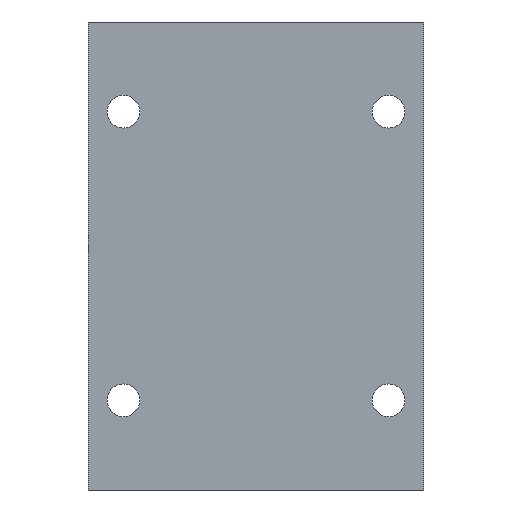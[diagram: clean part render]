
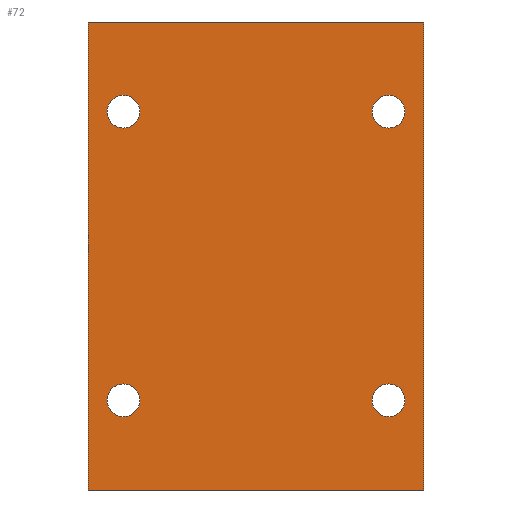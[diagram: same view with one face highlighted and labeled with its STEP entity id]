
A CAD part, front view. The second image highlights one B-rep face of the part: STEP entity #72.
In plain terms, the highlighted planar face has unit normal (0, -1, 0).
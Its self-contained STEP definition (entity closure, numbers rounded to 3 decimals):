
#18 = DIRECTION ( 'NONE',  ( 0., 0., 1. ) ) ;
#38 = DIRECTION ( 'NONE',  ( 0., 0., -1. ) ) ;
#50 = DIRECTION ( 'NONE',  ( 0., 0., -1. ) ) ;
#65 = EDGE_CURVE ( 'NONE', #905, #213, #830, .T. ) ;
#72 = ADVANCED_FACE ( 'NONE', ( #280, #99, #851, #1202, #476 ), #743, .F. ) ;
#79 = VECTOR ( 'NONE', #111, 1000. ) ;
#95 = EDGE_LOOP ( 'NONE', ( #988, #1065 ) ) ;
#97 = DIRECTION ( 'NONE',  ( 0., 0., -1. ) ) ;
#99 = FACE_BOUND ( 'NONE', #95, .T. ) ;
#105 = AXIS2_PLACEMENT_3D ( 'NONE', #1011, #474, #936 ) ;
#111 = DIRECTION ( 'NONE',  ( 0., 0., -1. ) ) ;
#114 = EDGE_CURVE ( 'NONE', #1186, #681, #197, .T. ) ;
#123 = DIRECTION ( 'NONE',  ( 0., 0., -1. ) ) ;
#126 = CIRCLE ( 'NONE', #165, 2.1 ) ;
#141 = DIRECTION ( 'NONE',  ( 0., -1., 0. ) ) ;
#158 = EDGE_LOOP ( 'NONE', ( #818, #532 ) ) ;
#165 = AXIS2_PLACEMENT_3D ( 'NONE', #379, #742, #287 ) ;
#170 = EDGE_CURVE ( 'NONE', #654, #509, #812, .T. ) ;
#197 = CIRCLE ( 'NONE', #875, 2.1 ) ;
#198 = DIRECTION ( 'NONE',  ( 1., 0., 0. ) ) ;
#205 = EDGE_CURVE ( 'NONE', #1149, #434, #1013, .T. ) ;
#211 = DIRECTION ( 'NONE',  ( 0., -1., 0. ) ) ;
#213 = VERTEX_POINT ( 'NONE', #774 ) ;
#247 = EDGE_CURVE ( 'NONE', #905, #520, #978, .T. ) ;
#255 = CARTESIAN_POINT ( 'NONE',  ( 17., -18.25, 16.4 ) ) ;
#266 = EDGE_CURVE ( 'NONE', #434, #1149, #521, .T. ) ;
#278 = CIRCLE ( 'NONE', #105, 2.1 ) ;
#280 = FACE_BOUND ( 'NONE', #346, .T. ) ;
#287 = DIRECTION ( 'NONE',  ( 0., 0., -1. ) ) ;
#288 = DIRECTION ( 'NONE',  ( 0., 1., 0. ) ) ;
#305 = DIRECTION ( 'NONE',  ( 1., 0., 0. ) ) ;
#318 = ORIENTED_EDGE ( 'NONE', *, *, #266, .F. ) ;
#325 = CARTESIAN_POINT ( 'NONE',  ( 17., -18.25, -18.5 ) ) ;
#326 = ORIENTED_EDGE ( 'NONE', *, *, #355, .F. ) ;
#337 = ORIENTED_EDGE ( 'NONE', *, *, #909, .T. ) ;
#346 = EDGE_LOOP ( 'NONE', ( #1105, #326 ) ) ;
#349 = AXIS2_PLACEMENT_3D ( 'NONE', #402, #211, #780 ) ;
#355 = EDGE_CURVE ( 'NONE', #681, #1186, #378, .T. ) ;
#368 = ORIENTED_EDGE ( 'NONE', *, *, #247, .F. ) ;
#378 = CIRCLE ( 'NONE', #781, 2.1 ) ;
#379 = CARTESIAN_POINT ( 'NONE',  ( -17., -18.25, -18.5 ) ) ;
#388 = CARTESIAN_POINT ( 'NONE',  ( -17., -18.25, 18.5 ) ) ;
#400 = CARTESIAN_POINT ( 'NONE',  ( 21.5, -18.25, -30. ) ) ;
#402 = CARTESIAN_POINT ( 'NONE',  ( -17., -18.25, -18.5 ) ) ;
#424 = DIRECTION ( 'NONE',  ( 0., -1., 0. ) ) ;
#434 = VERTEX_POINT ( 'NONE', #894 ) ;
#459 = LINE ( 'NONE', #930, #944 ) ;
#471 = EDGE_LOOP ( 'NONE', ( #337, #1190, #368, #503 ) ) ;
#474 = DIRECTION ( 'NONE',  ( 0., -1., 0. ) ) ;
#476 = FACE_BOUND ( 'NONE', #158, .T. ) ;
#497 = CARTESIAN_POINT ( 'NONE',  ( -17., -18.25, 16.4 ) ) ;
#502 = AXIS2_PLACEMENT_3D ( 'NONE', #388, #910, #749 ) ;
#503 = ORIENTED_EDGE ( 'NONE', *, *, #65, .T. ) ;
#509 = VERTEX_POINT ( 'NONE', #1005 ) ;
#516 = ORIENTED_EDGE ( 'NONE', *, *, #205, .F. ) ;
#520 = VERTEX_POINT ( 'NONE', #565 ) ;
#521 = CIRCLE ( 'NONE', #1167, 2.1 ) ;
#524 = VERTEX_POINT ( 'NONE', #572 ) ;
#532 = ORIENTED_EDGE ( 'NONE', *, *, #586, .F. ) ;
#551 = AXIS2_PLACEMENT_3D ( 'NONE', #562, #141, #38 ) ;
#562 = CARTESIAN_POINT ( 'NONE',  ( 17., -18.25, 18.5 ) ) ;
#565 = CARTESIAN_POINT ( 'NONE',  ( 21.5, -18.25, 30. ) ) ;
#566 = LINE ( 'NONE', #834, #634 ) ;
#567 = CARTESIAN_POINT ( 'NONE',  ( -21.5, -18.25, 30. ) ) ;
#571 = AXIS2_PLACEMENT_3D ( 'NONE', #1115, #288, #18 ) ;
#572 = CARTESIAN_POINT ( 'NONE',  ( -17., -18.25, 20.6 ) ) ;
#577 = CARTESIAN_POINT ( 'NONE',  ( 17., -18.25, -16.4 ) ) ;
#586 = EDGE_CURVE ( 'NONE', #524, #824, #278, .T. ) ;
#601 = EDGE_LOOP ( 'NONE', ( #516, #318 ) ) ;
#634 = VECTOR ( 'NONE', #198, 1000. ) ;
#654 = VERTEX_POINT ( 'NONE', #1067 ) ;
#670 = DIRECTION ( 'NONE',  ( 0., 0., -1. ) ) ;
#681 = VERTEX_POINT ( 'NONE', #577 ) ;
#742 = DIRECTION ( 'NONE',  ( 0., -1., 0. ) ) ;
#743 = PLANE ( 'NONE',  #571 ) ;
#749 = DIRECTION ( 'NONE',  ( 0., 0., -1. ) ) ;
#758 = DIRECTION ( 'NONE',  ( 0., -1., 0. ) ) ;
#774 = CARTESIAN_POINT ( 'NONE',  ( -21.5, -18.25, -30. ) ) ;
#780 = DIRECTION ( 'NONE',  ( 0., 0., -1. ) ) ;
#781 = AXIS2_PLACEMENT_3D ( 'NONE', #1182, #1168, #50 ) ;
#812 = CIRCLE ( 'NONE', #349, 2.1 ) ;
#817 = VERTEX_POINT ( 'NONE', #400 ) ;
#818 = ORIENTED_EDGE ( 'NONE', *, *, #979, .F. ) ;
#824 = VERTEX_POINT ( 'NONE', #497 ) ;
#830 = LINE ( 'NONE', #567, #79 ) ;
#834 = CARTESIAN_POINT ( 'NONE',  ( -21.5, -18.25, -30. ) ) ;
#851 = FACE_BOUND ( 'NONE', #601, .T. ) ;
#875 = AXIS2_PLACEMENT_3D ( 'NONE', #325, #424, #123 ) ;
#894 = CARTESIAN_POINT ( 'NONE',  ( 17., -18.25, 20.6 ) ) ;
#896 = CARTESIAN_POINT ( 'NONE',  ( 17., -18.25, -20.6 ) ) ;
#905 = VERTEX_POINT ( 'NONE', #1012 ) ;
#909 = EDGE_CURVE ( 'NONE', #213, #817, #566, .T. ) ;
#910 = DIRECTION ( 'NONE',  ( 0., -1., 0. ) ) ;
#930 = CARTESIAN_POINT ( 'NONE',  ( 21.5, -18.25, 30. ) ) ;
#936 = DIRECTION ( 'NONE',  ( 0., 0., -1. ) ) ;
#938 = EDGE_CURVE ( 'NONE', #520, #817, #459, .T. ) ;
#944 = VECTOR ( 'NONE', #97, 1000. ) ;
#954 = CARTESIAN_POINT ( 'NONE',  ( -21.5, -18.25, 30. ) ) ;
#955 = EDGE_CURVE ( 'NONE', #509, #654, #126, .T. ) ;
#960 = CARTESIAN_POINT ( 'NONE',  ( 17., -18.25, 18.5 ) ) ;
#978 = LINE ( 'NONE', #954, #1016 ) ;
#979 = EDGE_CURVE ( 'NONE', #824, #524, #1169, .T. ) ;
#988 = ORIENTED_EDGE ( 'NONE', *, *, #955, .F. ) ;
#1005 = CARTESIAN_POINT ( 'NONE',  ( -17., -18.25, -20.6 ) ) ;
#1011 = CARTESIAN_POINT ( 'NONE',  ( -17., -18.25, 18.5 ) ) ;
#1012 = CARTESIAN_POINT ( 'NONE',  ( -21.5, -18.25, 30. ) ) ;
#1013 = CIRCLE ( 'NONE', #551, 2.1 ) ;
#1016 = VECTOR ( 'NONE', #305, 1000. ) ;
#1065 = ORIENTED_EDGE ( 'NONE', *, *, #170, .F. ) ;
#1067 = CARTESIAN_POINT ( 'NONE',  ( -17., -18.25, -16.4 ) ) ;
#1105 = ORIENTED_EDGE ( 'NONE', *, *, #114, .F. ) ;
#1115 = CARTESIAN_POINT ( 'NONE',  ( -21.5, -18.25, 30. ) ) ;
#1149 = VERTEX_POINT ( 'NONE', #255 ) ;
#1167 = AXIS2_PLACEMENT_3D ( 'NONE', #960, #758, #670 ) ;
#1168 = DIRECTION ( 'NONE',  ( 0., -1., 0. ) ) ;
#1169 = CIRCLE ( 'NONE', #502, 2.1 ) ;
#1182 = CARTESIAN_POINT ( 'NONE',  ( 17., -18.25, -18.5 ) ) ;
#1186 = VERTEX_POINT ( 'NONE', #896 ) ;
#1190 = ORIENTED_EDGE ( 'NONE', *, *, #938, .F. ) ;
#1202 = FACE_OUTER_BOUND ( 'NONE', #471, .T. ) ;
